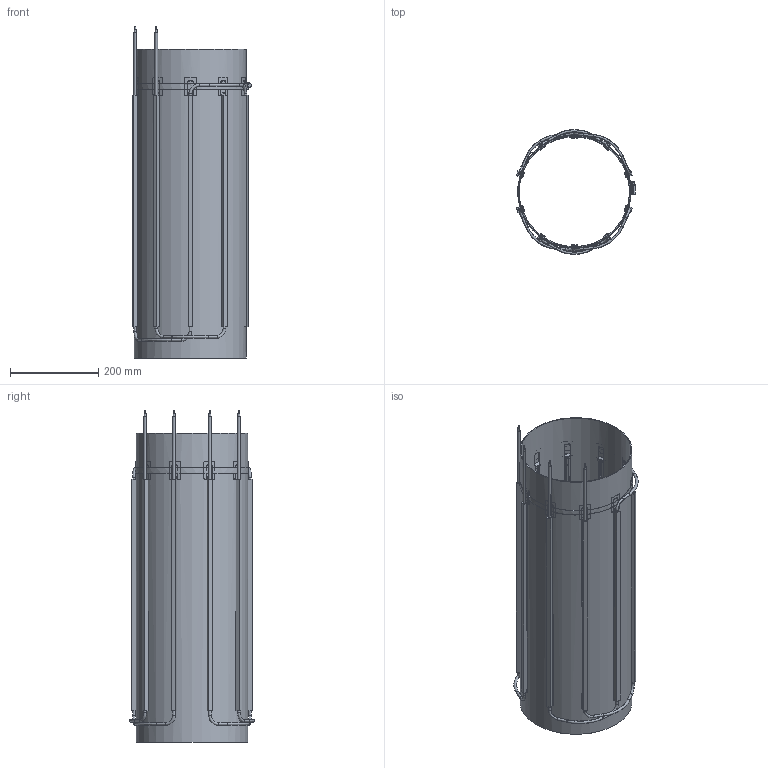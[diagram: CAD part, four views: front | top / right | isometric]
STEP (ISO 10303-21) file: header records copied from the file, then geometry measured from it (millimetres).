
FILE_DESCRIPTION(/* description */ (''),/* implementation_level */ '2;1');
FILE_NAME(/* name */ 'CONVEYOSTAT254.0_3D',/* time_stamp */ '2015-03-05T14:59:19+01:00',/* author */ (''),/* organization */ (''),/* preprocessor_version */ 'ST-DEVELOPER v15.7',/* originating_system */ 'HiCAD 2014 1902.2 Build 487',/* authorisation */ '');
FILE_SCHEMA (('AUTOMOTIVE_DESIGN { 1 0 10303 214 1 1 1 1 }'));
Products named in the file (2): Root; 254x700_Assembly
Assembly tree (1 placements, depth 2):
  Root
    254x700_Assembly
Bounding box: 269.8 x 283.22 x 753 mm (x, y, z)
Volume: 1729731.2 mm3; surface area: 1646511.9 mm2
Topology: 17 solids, 20 shells, 1130 faces, 3133 edges, 2020 vertices
Faces by surface type: plane 715, cylinder 315, torus 60, cone 40
Full cylindrical faces by diameter (mm): 1.42 x40, 2.5 x4, 4.019 x4, 4.6 x26, 4.8 x10, 5.3 x28, 6 x28, 250 x1, 254 x1
Entity records: 110443 total; most frequent: CARTESIAN_POINT 61375, PRESENTATION_STYLE_ASSIGNMENT 5519, DRAUGHTING_PRE_DEFINED_CURVE_FONT 5502, CURVE_STYLE 5502, OVER_RIDING_STYLED_ITEM 5502, ORIENTED_EDGE 5502, DIRECTION 5416, EDGE_CURVE 2751
